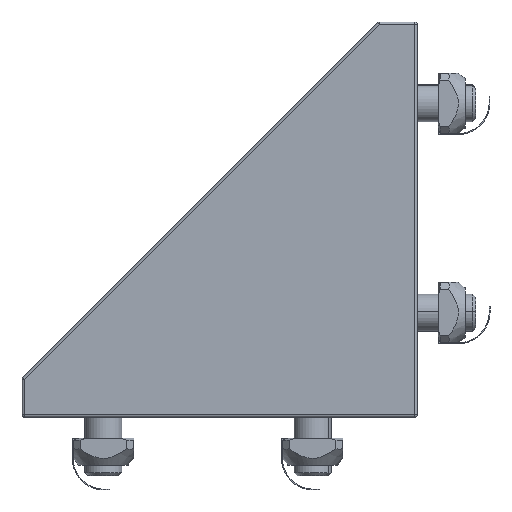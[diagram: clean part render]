
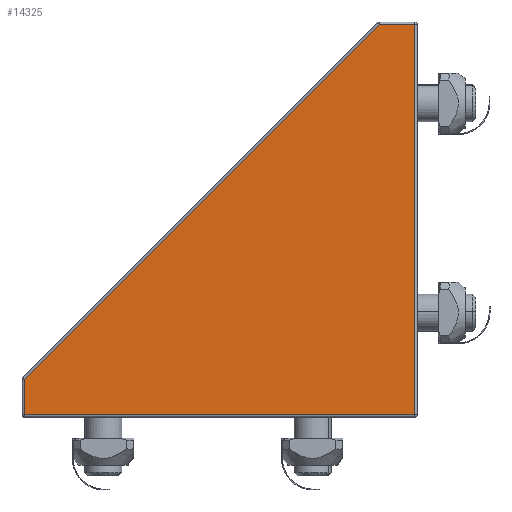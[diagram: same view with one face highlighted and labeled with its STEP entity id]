
A CAD part, left-side view. The second image highlights one B-rep face of the part: STEP entity #14325.
In plain terms, the highlighted planar face has unit normal (-1, 0, 0).
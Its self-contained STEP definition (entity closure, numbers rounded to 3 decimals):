
#666 = EDGE_CURVE ( 'NONE', #4538, #3256, #9914, .T. ) ;
#672 = CARTESIAN_POINT ( 'NONE',  ( -23.173, -39.381, -42.944 ) ) ;
#796 = CARTESIAN_POINT ( 'NONE',  ( -23.173, -31.037, 41.556 ) ) ;
#1459 = VECTOR ( 'NONE', #5689, 1000. ) ;
#1559 = EDGE_CURVE ( 'NONE', #3256, #16539, #16268, .T. ) ;
#1793 = VECTOR ( 'NONE', #3985, 1000. ) ;
#1889 = FACE_OUTER_BOUND ( 'NONE', #14806, .T. ) ;
#2084 = DIRECTION ( 'NONE',  ( 0., -1., 0. ) ) ;
#3256 = VERTEX_POINT ( 'NONE', #5270 ) ;
#3339 = DIRECTION ( 'NONE',  ( 0., 0., -1. ) ) ;
#3985 = DIRECTION ( 'NONE',  ( 0., 0.707, -0.707 ) ) ;
#4538 = VERTEX_POINT ( 'NONE', #9317 ) ;
#4775 = VERTEX_POINT ( 'NONE', #7837 ) ;
#4789 = AXIS2_PLACEMENT_3D ( 'NONE', #672, #15202, #3339 ) ;
#5270 = CARTESIAN_POINT ( 'NONE',  ( -23.173, 45.119, -42.444 ) ) ;
#5689 = DIRECTION ( 'NONE',  ( 0., 0., 1. ) ) ;
#5997 = DIRECTION ( 'NONE',  ( 0., 0., -1. ) ) ;
#6279 = LINE ( 'NONE', #796, #9625 ) ;
#6738 = EDGE_CURVE ( 'NONE', #4775, #4538, #7811, .T. ) ;
#7125 = CARTESIAN_POINT ( 'NONE',  ( -23.173, -39.381, -42.444 ) ) ;
#7510 = ORIENTED_EDGE ( 'NONE', *, *, #666, .T. ) ;
#7811 = LINE ( 'NONE', #15680, #1793 ) ;
#7837 = CARTESIAN_POINT ( 'NONE',  ( -23.173, -31.244, 41.556 ) ) ;
#7988 = CARTESIAN_POINT ( 'NONE',  ( -23.173, -38.881, -42.444 ) ) ;
#8697 = CARTESIAN_POINT ( 'NONE',  ( -23.173, 45.119, -42.944 ) ) ;
#8739 = VECTOR ( 'NONE', #5997, 1000. ) ;
#8874 = VECTOR ( 'NONE', #2084, 1000. ) ;
#9317 = CARTESIAN_POINT ( 'NONE',  ( -23.173, 45.119, -34.808 ) ) ;
#9625 = VECTOR ( 'NONE', #15325, 1000. ) ;
#9732 = PLANE ( 'NONE',  #4789 ) ;
#9914 = LINE ( 'NONE', #8697, #8739 ) ;
#10244 = CARTESIAN_POINT ( 'NONE',  ( -23.173, -38.881, 41.556 ) ) ;
#10850 = ORIENTED_EDGE ( 'NONE', *, *, #6738, .T. ) ;
#11064 = LINE ( 'NONE', #16022, #1459 ) ;
#12047 = ORIENTED_EDGE ( 'NONE', *, *, #13029, .T. ) ;
#12973 = EDGE_CURVE ( 'NONE', #16539, #13439, #11064, .T. ) ;
#13029 = EDGE_CURVE ( 'NONE', #13439, #4775, #6279, .T. ) ;
#13439 = VERTEX_POINT ( 'NONE', #10244 ) ;
#14325 = ADVANCED_FACE ( 'NONE', ( #1889 ), #9732, .F. ) ;
#14806 = EDGE_LOOP ( 'NONE', ( #16347, #16679, #12047, #10850, #7510 ) ) ;
#15202 = DIRECTION ( 'NONE',  ( 1., 0., 0. ) ) ;
#15325 = DIRECTION ( 'NONE',  ( 0., 1., 0. ) ) ;
#15680 = CARTESIAN_POINT ( 'NONE',  ( -23.173, 6.937, 3.374 ) ) ;
#16022 = CARTESIAN_POINT ( 'NONE',  ( -23.173, -38.881, -42.944 ) ) ;
#16268 = LINE ( 'NONE', #7125, #8874 ) ;
#16347 = ORIENTED_EDGE ( 'NONE', *, *, #1559, .T. ) ;
#16539 = VERTEX_POINT ( 'NONE', #7988 ) ;
#16679 = ORIENTED_EDGE ( 'NONE', *, *, #12973, .T. ) ;
